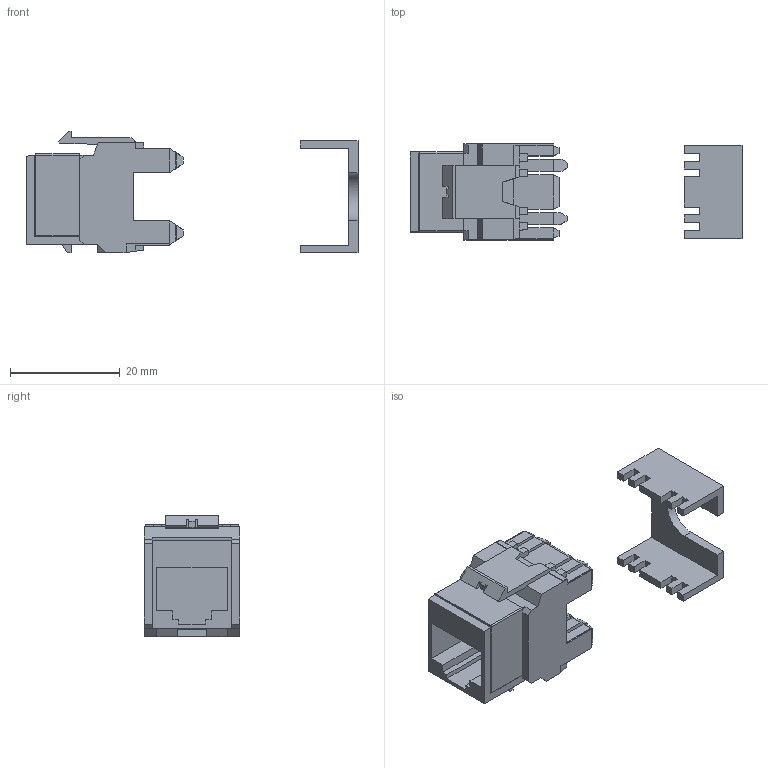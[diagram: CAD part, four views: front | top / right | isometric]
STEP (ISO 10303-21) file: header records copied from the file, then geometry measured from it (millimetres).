
FILE_DESCRIPTION( ('This file contains a STEP AP42 implementation' ,'as created by ZW3D STEP Interface translator.') ,'2;1' );
FILE_NAME( 'TB-034_3013AKHA6AWH_SD.stp' ,'26 330.134527', (''), ('ZWCAD Software Co.'), 'Version 1.0', 'ZW3D to STEP translator', '' );
FILE_SCHEMA(('AUTOMOTIVE_DESIGN'));
Length unit declared in the file: millimetre
Products named in the file (2): 0; TB-034_3013AKHA6AWH_SD
Bounding box: 60.4 x 17.45 x 22.12 mm (x, y, z)
Volume: 6317.4 mm3; surface area: 5162.2 mm2
Topology: 2 solids, 2 shells, 314 faces, 855 edges, 548 vertices
Faces by surface type: bspline 314
Entity records: 12623 total; most frequent: CARTESIAN_POINT 7039, ORIENTED_EDGE 1710, B_SPLINE_CURVE_WITH_KNOTS 855, EDGE_CURVE 855, VERTEX_POINT 548, EDGE_LOOP 319, FACE_OUTER_BOUND 314, ADVANCED_FACE 314
